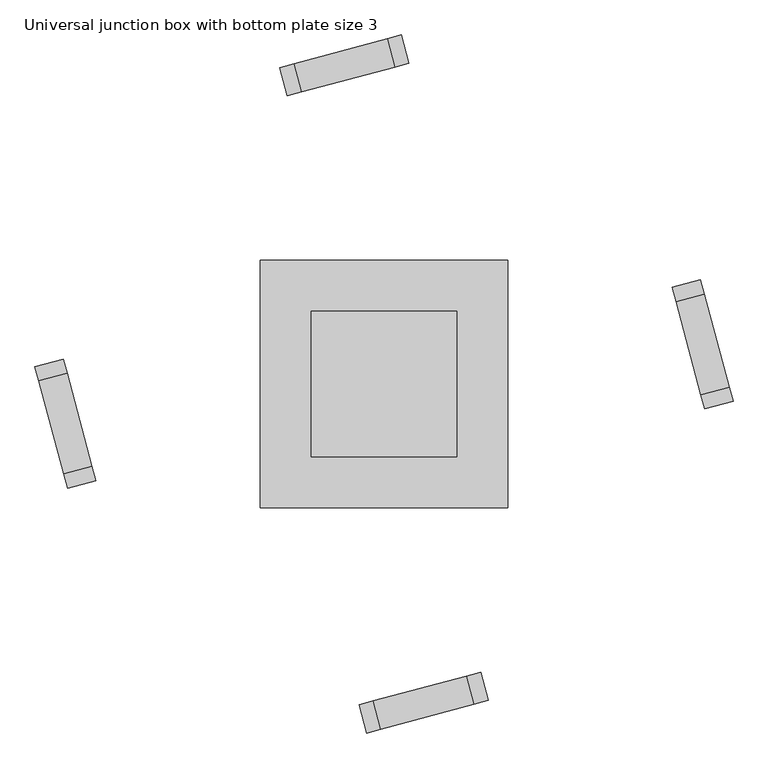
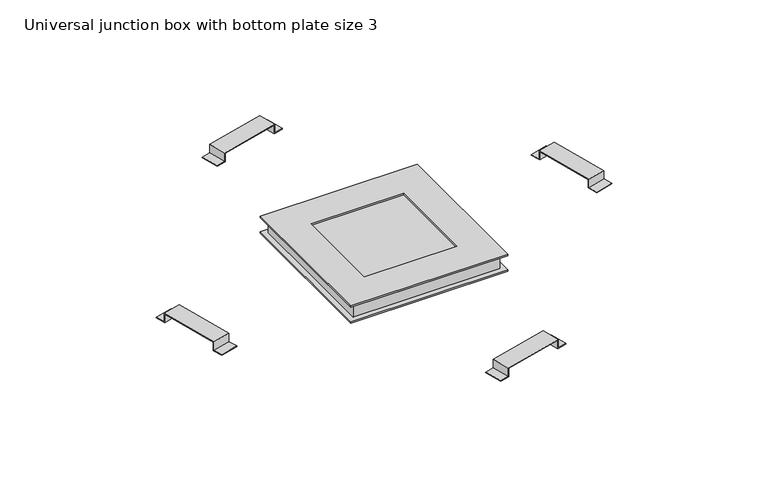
"""IFC4 building model written with IfcOpenShell, lengths in millimetres: cable carrier fitting geometry, Electrical-Installations_Hager_Universal-Junction-Box-With-Bottom-Plate-Size-3-Angled : Universal junction box with bottom plate size 3."""

from ifc_helpers import new_model, si_unit, frame, origin, place, context, project, spatial, polyline, outline, extrude, faceted_brep, source, transform, mapped, element, save


def universal_junction_box_with_bottom_plate_size_3_6bbe9316(model_context):
    return source(origin(), model_context, "Body", "SolidModel", [
        extrude(outline(polyline([(0.0, 0.0), (32.0, 0.0), (32.0, -28.0), (222.0, -28.0), (222.0, 0.0), (253.9999999, 0.0), (253.9999999, -2.0), (223.9999999, -2.0), (223.9999999, -30.0), (29.9999999, -30.0), (29.9999999, -2.0), (0.0, -2.0), (0.0, 0.0)])), frame((-195.012503, 581.0445185, -14.0), z_axis=(-0.2588190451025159, 0.9659258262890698, 0.0), x_axis=(0.9659258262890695, 0.25881904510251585, 0.0)), (0.0, 0.0, 1.0), 59.0),
        extrude(outline(polyline([(0.0, 0.0), (0.0, -2.0), (-30.0, -2.0), (-30.0, -30.0), (-224.0, -30.0), (-224.0, -2.0), (-254.0, -2.0), (-254.0, 0.0), (-222.0, 0.0), (-222.0, -28.0), (-31.9999999, -28.0), (-31.9999999, 0.0), (0.0, 0.0)])), frame((-638.0341423, -210.2828267, -14.0), z_axis=(0.9659258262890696, 0.2588190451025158, 0.0), x_axis=(0.2588190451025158, -0.9659258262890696, 0.0)), (0.0, 0.0, 1.0), 59.0),
        extrude(outline(polyline([(0.0, 0.0), (32.0, 0.0), (32.0, -28.0), (222.0000001, -28.0), (222.0000001, 0.0), (254.0, 0.0), (254.0, -2.0), (224.0, -2.0), (224.0, -30.0), (30.0, -30.0), (30.0, -2.0), (0.0, -2.0), (0.0, 0.0)])), frame((-35.0623332, -703.7741797, -14.0), z_axis=(-0.25881904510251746, 0.9659258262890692, 0.0), x_axis=(0.9659258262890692, 0.25881904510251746, 0.0)), (0.0, 0.0, 1.0), 59.0),
        extrude(outline(polyline([(0.0, 0.0), (0.0, -2.0), (-30.0, -2.0), (-30.0, -30.0), (-224.0, -30.0), (-224.0, -2.0), (-253.9999999, -2.0), (-253.9999999, 0.0), (-222.0, 0.0), (-222.0, -28.0), (-32.0, -28.0), (-32.0, 0.0), (0.0, 0.0)])), frame((646.784556, -50.3326568, -14.0), z_axis=(0.9659258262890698, 0.2588190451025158, 0.0), x_axis=(0.2588190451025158, -0.9659258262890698, 0.0)), (0.0, 0.0, 1.0), 59.0),
        faceted_brep([(-249.0, -249.0, 39.0), (249.0, -249.0, 39.0), (249.0, 249.0, 39.0), (-249.0, 249.0, 39.0), (-147.0, 147.0, 39.0), (147.0, 147.0, 39.0), (147.0, -147.0, 39.0), (-147.0, -147.0, 39.0), (-249.0, -249.0, 34.0), (-249.0, 249.0, 34.0), (249.0, 249.0, 34.0), (249.0, -249.0, 34.0), (227.0, 227.0, 34.0), (-227.0, 227.0, 34.0), (-227.0, -227.0, 34.0), (227.0, -227.0, 34.0), (-147.0, 147.0, 34.7820613), (147.0, 147.0, 34.7820613), (147.0, -147.0, 34.7820613), (-147.0, -147.0, 34.7820613), (227.0, 227.0, 34.7820613), (227.0, -227.0, 34.7820613), (-227.0, -227.0, 34.7820613), (-227.0, 227.0, 34.7820613)], [[[0, 1, 2, 3], [4, 5, 6, 7]], [[8, 9, 10, 11], [12, 13, 14, 15]], [[1, 0, 8, 11]], [[2, 1, 11, 10]], [[3, 2, 10, 9]], [[0, 3, 9, 8]], [[5, 4, 16, 17]], [[6, 5, 17, 18]], [[7, 6, 18, 19]], [[4, 7, 19, 16]], [[20, 21, 22, 23], [17, 16, 19, 18]], [[20, 23, 13, 12]], [[23, 22, 14, 13]], [[22, 21, 15, 14]], [[21, 20, 12, 15]]]),
        extrude(outline(polyline([(249.0, 249.0), (249.0, -249.0), (-249.0, -249.0), (-249.0, 249.0), (249.0, 249.0)])), frame((0.0, 0.0, -19.0), z_axis=(0.0, 0.0, 1.0), x_axis=(1.0, 0.0, 0.0)), (0.0, 0.0, 1.0), 5.0),
        faceted_brep([(-233.0, 233.0, 34.0), (-233.0, -233.0, 34.0), (233.0, -233.0, 34.0), (233.0, 233.0, 34.0), (-227.0, 227.0, 34.0), (227.0, 227.0, 34.0), (227.0, -227.0, 34.0), (-227.0, -227.0, 34.0), (-233.0, 233.0, -14.0), (233.0, 233.0, -14.0), (233.0, -233.0, -14.0), (-233.0, -233.0, -14.0), (227.0, 227.0, -6.1362798), (-227.0, 227.0, -6.1362798), (-227.0, -227.0, -6.1362798), (227.0, -227.0, -6.1362798)], [[[0, 1, 2, 3], [4, 5, 6, 7]], [[8, 9, 10, 11]], [[1, 0, 8, 11]], [[2, 1, 11, 10]], [[3, 2, 10, 9]], [[0, 3, 9, 8]], [[12, 13, 14, 15]], [[13, 12, 5, 4]], [[14, 13, 4, 7]], [[15, 14, 7, 6]], [[12, 15, 6, 5]]]),
    ])


if __name__ == "__main__":
    model = new_model("IFC4")
    model_context = context("Model", 3, world=origin())
    ifc_project = project(units=[si_unit("LENGTHUNIT", "METRE", prefix="MILLI")], contexts=[model_context])
    site = spatial("IfcSite", under=ifc_project)
    building = spatial("IfcBuilding", under=site)
    placement = place(None, origin())
    universal_junction_box_with_bottom_plate_size_3_shape = universal_junction_box_with_bottom_plate_size_3_6bbe9316(model_context)
    element("IfcCableCarrierFitting", 1, ObjectType="Electrical-Installations_Hager_Universal-Junction-Box-With-Bottom-Plate-Size-3-Angled : Universal junction box with bottom plate size 3", at=placement, inside=building, context=model_context, shape_type="MappedRepresentation", body=[
        mapped(universal_junction_box_with_bottom_plate_size_3_shape, transform((0.0, 0.0, 0.0), x_axis=(1.0, 0.0, 0.0), y_axis=(0.0, 1.0, 0.0), z_axis=(0.0, 0.0, 1.0))),
    ])
    save(model, "model.ifc")
